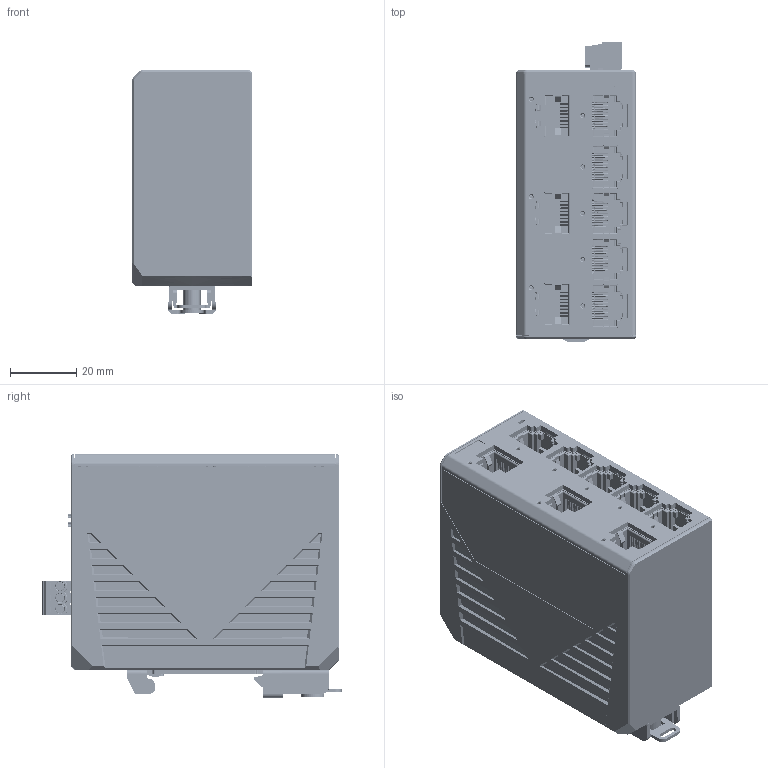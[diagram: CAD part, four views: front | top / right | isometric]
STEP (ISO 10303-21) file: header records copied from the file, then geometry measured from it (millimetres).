
FILE_DESCRIPTION((''),'2;1');
FILE_NAME('3D_EDS-G2008-ELP','2023-01-09T16:39:49',('Dacia_Yao'),('PTC'),'CREO PARAMETRIC BY PTC INC, 2018020','CREO PARAMETRIC BY PTC INC, 2018020','');
FILE_SCHEMA(('AUTOMOTIVE_DESIGN { 1 0 10303 214 1 1 1 1 }'));
Products named in the file (1): 3D_EDS-G2008-ELP
Bounding box: 36 x 90.2 x 73.49 mm (x, y, z)
Volume: 13319.7 mm3; surface area: 107529 mm2
Topology: 7 solids, 25 shells, 14996 faces, 44258 edges, 28612 vertices
Faces by surface type: plane 11478, cylinder 2911, cone 200, torus 200, sphere 166, bspline 29, extrusion 12
Entity records: 510016 total; most frequent: CARTESIAN_POINT 102185, ORIENTED_EDGE 87524, DIRECTION 77934, EDGE_CURVE 44090, VECTOR 36002, LINE 35990, VERTEX_POINT 28612, AXIS2_PLACEMENT_3D 20966
